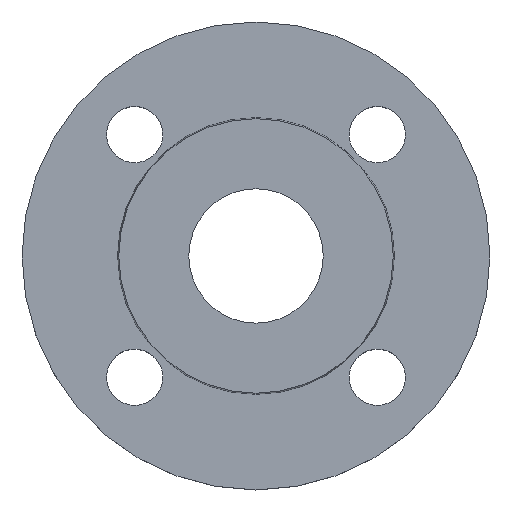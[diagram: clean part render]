
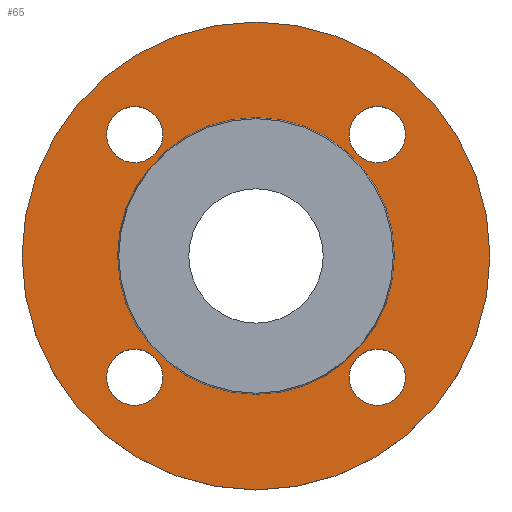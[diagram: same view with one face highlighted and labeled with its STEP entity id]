
A CAD part, top view. The second image highlights one B-rep face of the part: STEP entity #65.
In plain terms, the highlighted planar face has unit normal (0, 0, 1).
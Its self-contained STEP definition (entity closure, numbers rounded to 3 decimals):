
#3 = EDGE_CURVE ( 'NONE', #338, #286, #146, .T. ) ;
#4 = CIRCLE ( 'NONE', #503, 9. ) ;
#8 = CIRCLE ( 'NONE', #132, 75. ) ;
#9 = AXIS2_PLACEMENT_3D ( 'NONE', #526, #527, #528 ) ;
#10 = CIRCLE ( 'NONE', #69, 9. ) ;
#22 = CARTESIAN_POINT ( 'NONE',  ( -47.891, -38.891, -2. ) ) ;
#25 = CARTESIAN_POINT ( 'NONE',  ( 44.353, 0., -2. ) ) ;
#27 = CARTESIAN_POINT ( 'NONE',  ( -29.891, -38.891, -2. ) ) ;
#29 = CARTESIAN_POINT ( 'NONE',  ( -47.891, 38.891, -2. ) ) ;
#36 = CARTESIAN_POINT ( 'NONE',  ( 29.891, -38.891, -2. ) ) ;
#40 = CIRCLE ( 'NONE', #239, 75. ) ;
#48 = EDGE_CURVE ( 'NONE', #347, #313, #4, .T. ) ;
#51 = CIRCLE ( 'NONE', #473, 9. ) ;
#55 = CIRCLE ( 'NONE', #9, 9. ) ;
#64 = AXIS2_PLACEMENT_3D ( 'NONE', #428, #429, #430 ) ;
#65 = ADVANCED_FACE ( 'NONE', ( #420, #422, #423, #424, #425, #426 ), #427, .T. ) ;
#69 = AXIS2_PLACEMENT_3D ( 'NONE', #213, #215, #222 ) ;
#81 = AXIS2_PLACEMENT_3D ( 'NONE', #461, #462, #463 ) ;
#91 = EDGE_CURVE ( 'NONE', #321, #288, #520, .T. ) ;
#99 = CIRCLE ( 'NONE', #81, 9. ) ;
#101 = EDGE_CURVE ( 'NONE', #311, #293, #40, .T. ) ;
#104 = ORIENTED_EDGE ( 'NONE', *, *, #101, .F. ) ;
#110 = EDGE_CURVE ( 'NONE', #327, #339, #99, .T. ) ;
#117 = ORIENTED_EDGE ( 'NONE', *, *, #172, .F. ) ;
#132 = AXIS2_PLACEMENT_3D ( 'NONE', #480, #481, #482 ) ;
#134 = ORIENTED_EDGE ( 'NONE', *, *, #237, .T. ) ;
#139 = DIRECTION ( 'NONE',  ( 1., 0., 0. ) ) ;
#140 = CARTESIAN_POINT ( 'NONE',  ( 47.891, -38.891, -2. ) ) ;
#146 = CIRCLE ( 'NONE', #217, 44.353 ) ;
#149 = DIRECTION ( 'NONE',  ( 0., 0., -1. ) ) ;
#172 = EDGE_CURVE ( 'NONE', #293, #311, #8, .T. ) ;
#176 = AXIS2_PLACEMENT_3D ( 'NONE', #449, #451, #452 ) ;
#182 = CARTESIAN_POINT ( 'NONE',  ( 38.891, -38.891, -2. ) ) ;
#213 = CARTESIAN_POINT ( 'NONE',  ( -38.891, -38.891, -2. ) ) ;
#215 = DIRECTION ( 'NONE',  ( 0., 0., -1. ) ) ;
#217 = AXIS2_PLACEMENT_3D ( 'NONE', #372, #373, #374 ) ;
#222 = DIRECTION ( 'NONE',  ( 1., 0., 0. ) ) ;
#237 = EDGE_CURVE ( 'NONE', #313, #347, #55, .T. ) ;
#239 = AXIS2_PLACEMENT_3D ( 'NONE', #453, #454, #455 ) ;
#245 = ORIENTED_EDGE ( 'NONE', *, *, #399, .T. ) ;
#247 = ORIENTED_EDGE ( 'NONE', *, *, #484, .T. ) ;
#248 = ORIENTED_EDGE ( 'NONE', *, *, #267, .T. ) ;
#265 = EDGE_CURVE ( 'NONE', #288, #321, #51, .T. ) ;
#267 = EDGE_CURVE ( 'NONE', #586, #652, #555, .T. ) ;
#276 = EDGE_CURVE ( 'NONE', #286, #338, #621, .T. ) ;
#286 = VERTEX_POINT ( 'NONE', #599 ) ;
#287 = EDGE_LOOP ( 'NONE', ( #117, #104 ) ) ;
#288 = VERTEX_POINT ( 'NONE', #600 ) ;
#291 = EDGE_LOOP ( 'NONE', ( #245, #585 ) ) ;
#293 = VERTEX_POINT ( 'NONE', #602 ) ;
#297 = EDGE_LOOP ( 'NONE', ( #134, #649 ) ) ;
#307 = EDGE_LOOP ( 'NONE', ( #608, #609 ) ) ;
#311 = VERTEX_POINT ( 'NONE', #666 ) ;
#313 = VERTEX_POINT ( 'NONE', #612 ) ;
#316 = EDGE_LOOP ( 'NONE', ( #610, #400 ) ) ;
#321 = VERTEX_POINT ( 'NONE', #591 ) ;
#327 = VERTEX_POINT ( 'NONE', #22 ) ;
#338 = VERTEX_POINT ( 'NONE', #25 ) ;
#339 = VERTEX_POINT ( 'NONE', #27 ) ;
#347 = VERTEX_POINT ( 'NONE', #29 ) ;
#350 = EDGE_LOOP ( 'NONE', ( #248, #247 ) ) ;
#372 = CARTESIAN_POINT ( 'NONE',  ( 0., 0., -2. ) ) ;
#373 = DIRECTION ( 'NONE',  ( 0., 0., -1. ) ) ;
#374 = DIRECTION ( 'NONE',  ( -1., 0., 0. ) ) ;
#399 = EDGE_CURVE ( 'NONE', #339, #327, #10, .T. ) ;
#400 = ORIENTED_EDGE ( 'NONE', *, *, #3, .T. ) ;
#407 = CARTESIAN_POINT ( 'NONE',  ( -38.891, 38.891, -2. ) ) ;
#408 = DIRECTION ( 'NONE',  ( 0., 0., -1. ) ) ;
#409 = DIRECTION ( 'NONE',  ( 1., 0., 0. ) ) ;
#420 = FACE_BOUND ( 'NONE', #350, .T. ) ;
#421 = AXIS2_PLACEMENT_3D ( 'NONE', #594, #596, #597 ) ;
#422 = FACE_BOUND ( 'NONE', #291, .T. ) ;
#423 = FACE_BOUND ( 'NONE', #297, .T. ) ;
#424 = FACE_BOUND ( 'NONE', #307, .T. ) ;
#425 = FACE_BOUND ( 'NONE', #316, .T. ) ;
#426 = FACE_OUTER_BOUND ( 'NONE', #287, .T. ) ;
#427 = PLANE ( 'NONE',  #64 ) ;
#428 = CARTESIAN_POINT ( 'NONE',  ( 44.353, 0., -2. ) ) ;
#429 = DIRECTION ( 'NONE',  ( 0., 0., 1. ) ) ;
#430 = DIRECTION ( 'NONE',  ( 1., 0., 0. ) ) ;
#436 = CIRCLE ( 'NONE', #622, 9. ) ;
#449 = CARTESIAN_POINT ( 'NONE',  ( 38.891, 38.891, -2. ) ) ;
#451 = DIRECTION ( 'NONE',  ( 0., 0., -1. ) ) ;
#452 = DIRECTION ( 'NONE',  ( 1., 0., 0. ) ) ;
#453 = CARTESIAN_POINT ( 'NONE',  ( 0., 0., -2. ) ) ;
#454 = DIRECTION ( 'NONE',  ( 0., 0., -1. ) ) ;
#455 = DIRECTION ( 'NONE',  ( -1., 0., 0. ) ) ;
#461 = CARTESIAN_POINT ( 'NONE',  ( -38.891, -38.891, -2. ) ) ;
#462 = DIRECTION ( 'NONE',  ( 0., 0., -1. ) ) ;
#463 = DIRECTION ( 'NONE',  ( 1., 0., 0. ) ) ;
#473 = AXIS2_PLACEMENT_3D ( 'NONE', #570, #572, #573 ) ;
#480 = CARTESIAN_POINT ( 'NONE',  ( 0., 0., -2. ) ) ;
#481 = DIRECTION ( 'NONE',  ( 0., 0., -1. ) ) ;
#482 = DIRECTION ( 'NONE',  ( -1., 0., 0. ) ) ;
#484 = EDGE_CURVE ( 'NONE', #652, #586, #436, .T. ) ;
#503 = AXIS2_PLACEMENT_3D ( 'NONE', #407, #408, #409 ) ;
#520 = CIRCLE ( 'NONE', #176, 9. ) ;
#526 = CARTESIAN_POINT ( 'NONE',  ( -38.891, 38.891, -2. ) ) ;
#527 = DIRECTION ( 'NONE',  ( 0., 0., -1. ) ) ;
#528 = DIRECTION ( 'NONE',  ( 1., 0., 0. ) ) ;
#555 = CIRCLE ( 'NONE', #580, 9. ) ;
#570 = CARTESIAN_POINT ( 'NONE',  ( 38.891, 38.891, -2. ) ) ;
#572 = DIRECTION ( 'NONE',  ( 0., 0., -1. ) ) ;
#573 = DIRECTION ( 'NONE',  ( 1., 0., 0. ) ) ;
#574 = CARTESIAN_POINT ( 'NONE',  ( 38.891, -38.891, -2. ) ) ;
#575 = DIRECTION ( 'NONE',  ( 0., 0., -1. ) ) ;
#576 = DIRECTION ( 'NONE',  ( 1., 0., 0. ) ) ;
#580 = AXIS2_PLACEMENT_3D ( 'NONE', #574, #575, #576 ) ;
#585 = ORIENTED_EDGE ( 'NONE', *, *, #110, .T. ) ;
#586 = VERTEX_POINT ( 'NONE', #140 ) ;
#591 = CARTESIAN_POINT ( 'NONE',  ( 29.891, 38.891, -2. ) ) ;
#594 = CARTESIAN_POINT ( 'NONE',  ( 0., 0., -2. ) ) ;
#596 = DIRECTION ( 'NONE',  ( 0., 0., -1. ) ) ;
#597 = DIRECTION ( 'NONE',  ( -1., 0., 0. ) ) ;
#599 = CARTESIAN_POINT ( 'NONE',  ( -44.353, 0., -2. ) ) ;
#600 = CARTESIAN_POINT ( 'NONE',  ( 47.891, 38.891, -2. ) ) ;
#602 = CARTESIAN_POINT ( 'NONE',  ( 75., 0., -2. ) ) ;
#608 = ORIENTED_EDGE ( 'NONE', *, *, #265, .T. ) ;
#609 = ORIENTED_EDGE ( 'NONE', *, *, #91, .T. ) ;
#610 = ORIENTED_EDGE ( 'NONE', *, *, #276, .T. ) ;
#612 = CARTESIAN_POINT ( 'NONE',  ( -29.891, 38.891, -2. ) ) ;
#621 = CIRCLE ( 'NONE', #421, 44.353 ) ;
#622 = AXIS2_PLACEMENT_3D ( 'NONE', #182, #149, #139 ) ;
#649 = ORIENTED_EDGE ( 'NONE', *, *, #48, .T. ) ;
#652 = VERTEX_POINT ( 'NONE', #36 ) ;
#666 = CARTESIAN_POINT ( 'NONE',  ( -75., 0., -2. ) ) ;
